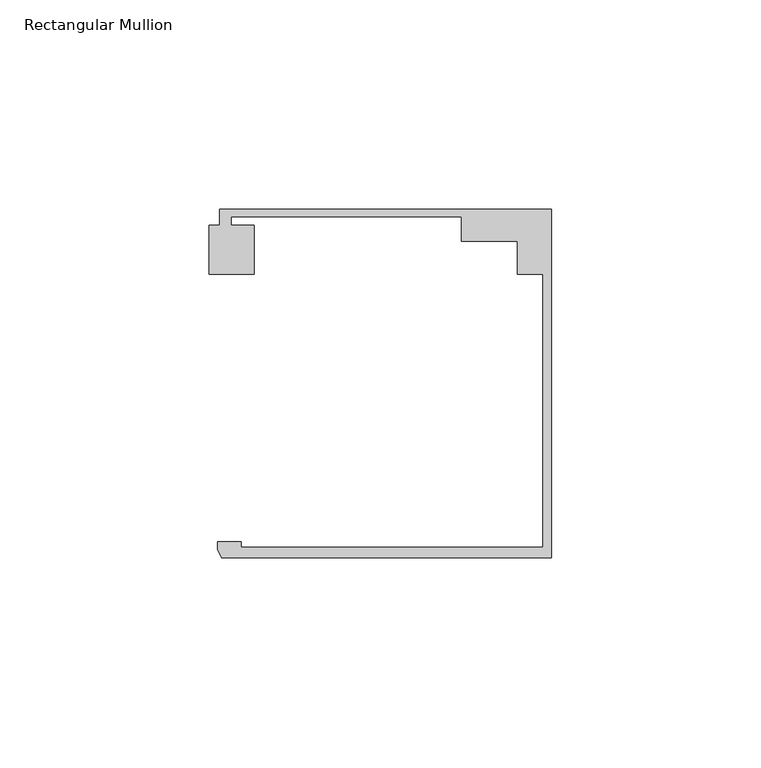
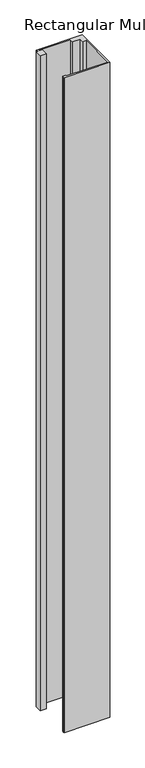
"""IFC4 building model written with IfcOpenShell, lengths in millimetres: member geometry, Rectangular Mullion : Danpal_Airpt_End-Mullion_B1."""

from ifc_helpers import new_model, si_unit, frame, origin, place, context, project, spatial, polyline, outline, extrude, source, transform, mapped, element, save


def rectangular_mullion_9c50ca3c(model_context):
    return source(origin(), model_context, "Body", "SweptSolid", [
        extrude(outline(polyline([(-74.2474668, -74.9940824), (-2.0000001, -74.9940824), (-2.0000001, -9.7188964), (-8.1, -9.7188964), (-8.1, -1.8818054), (-21.5478166, -1.8818054), (-21.5478166, 4.0051512), (-76.6478166, 4.0051512), (-76.6478166, 2.0051513), (-71.1433532, 2.0051513), (-71.1433532, -9.6875514), (-81.8592324, -9.6875514), (-81.8592324, 2.0051513), (-79.3474874, 2.0051513), (-79.3474874, 5.8051514), (0.0, 5.8051514), (0.0, -77.4940825), (-78.8515009, -77.4940825), (-79.7784606, -75.5472671), (-79.7784606, -73.6940824), (-74.2474668, -73.6940824), (-74.2474668, -74.9940824)])), frame((0.0, 0.0, -1200.0), z_axis=(0.0, 0.0, 1.0), x_axis=(1.0, 0.0, 0.0)), (0.0, 0.0, 1.0), 1200.0),
    ])


if __name__ == "__main__":
    model = new_model("IFC4")
    model_context = context("Model", 3, world=origin())
    ifc_project = project(units=[si_unit("LENGTHUNIT", "METRE", prefix="MILLI")], contexts=[model_context])
    site = spatial("IfcSite", under=ifc_project)
    building = spatial("IfcBuilding", under=site)
    placement = place(None, origin())
    rectangular_mullion_shape = rectangular_mullion_9c50ca3c(model_context)
    element("IfcMember", 1, ObjectType="Rectangular Mullion : Danpal_Airpt_End-Mullion_B1", at=placement, inside=building, context=model_context, shape_type="MappedRepresentation", body=[
        mapped(rectangular_mullion_shape, transform((0.0, 0.0, 0.0), x_axis=(1.0, 0.0, 0.0), y_axis=(0.0, 1.0, 0.0), z_axis=(0.0, 0.0, 1.0))),
    ])
    save(model, "model.ifc")
